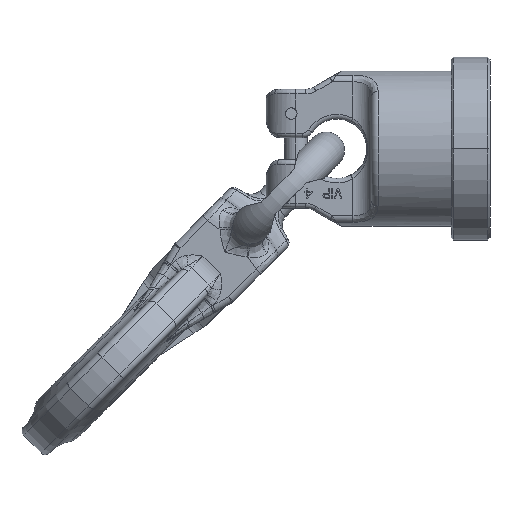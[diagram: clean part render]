
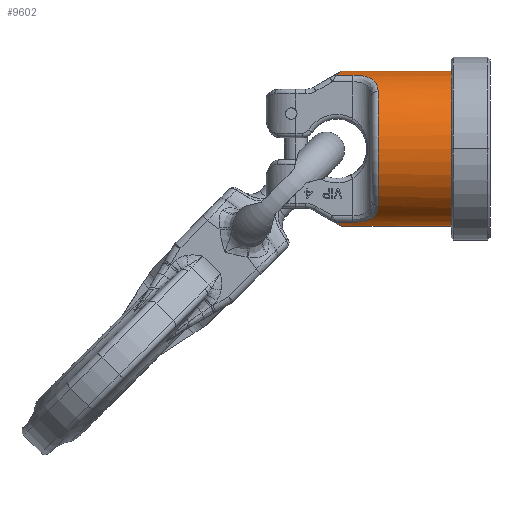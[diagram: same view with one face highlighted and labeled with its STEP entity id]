
A CAD part, front view. The second image highlights one B-rep face of the part: STEP entity #9602.
In plain terms, the highlighted cylindrical face has radius 17 mm (diameter 34 mm), a partial arc.
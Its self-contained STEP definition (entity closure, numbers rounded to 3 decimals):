
#6=CARTESIAN_POINT('',(43.,0.,0.));
#7=DIRECTION('',(1.,0.,0.));
#8=DIRECTION('',(0.,0.,1.));
#9=AXIS2_PLACEMENT_3D('',#6,#7,#8);
#1147=CARTESIAN_POINT('',(16.768,0.,
-17.));
#1155=DIRECTION('',(1.,0.,0.));
#1156=VECTOR('',#1155,26.232);
#1157=CARTESIAN_POINT('',(16.768,0.,
-17.));
#1158=LINE('',#1157,#1156);
#1821=CARTESIAN_POINT('',(15.286,-5.484,
-16.091));
#1822=CARTESIAN_POINT('',(15.552,-5.005,
-16.254));
#1823=CARTESIAN_POINT('',(16.004,-4.051,
-16.532));
#1824=CARTESIAN_POINT('',(16.457,-2.662,
-16.809));
#1825=CARTESIAN_POINT('',(16.714,-1.312,
-16.967));
#1826=CARTESIAN_POINT('',(16.768,-0.432,
-17.));
#1827=CARTESIAN_POINT('',(16.768,0.,
-17.));
#1829=DIRECTION('',(-1.,0.,0.));
#1830=VECTOR('',#1829,3.714);
#1831=CARTESIAN_POINT('',(19.,-5.484,
-16.091));
#1832=LINE('',#1831,#1830);
#1833=CARTESIAN_POINT('',(24.5,-11.516,
-12.505));
#1834=CARTESIAN_POINT('',(24.5,-11.126,
-12.864));
#1835=CARTESIAN_POINT('',(24.435,-10.343,
-13.521));
#1836=CARTESIAN_POINT('',(24.083,-9.098,
-14.383));
#1837=CARTESIAN_POINT('',(23.541,-8.045,
-14.989));
#1838=CARTESIAN_POINT('',(22.831,-7.134,
-15.44));
#1839=CARTESIAN_POINT('',(21.99,-6.409,
-15.75));
#1840=CARTESIAN_POINT('',(21.048,-5.878,
-15.954));
#1841=CARTESIAN_POINT('',(20.036,-5.555,
-16.067));
#1842=CARTESIAN_POINT('',(19.349,-5.484,
-16.091));
#1843=CARTESIAN_POINT('',(19.,-5.484,
-16.091));
#1845=CARTESIAN_POINT('',(24.5,0.,0.));
#1846=DIRECTION('',(1.,0.,0.));
#1847=DIRECTION('',(0.,-0.677,0.736));
#1848=AXIS2_PLACEMENT_3D('',#1845,#1846,#1847);
#1850=CARTESIAN_POINT('',(19.,-5.484,16.091));
#1851=CARTESIAN_POINT('',(19.349,-5.484,16.091));
#1852=CARTESIAN_POINT('',(20.036,-5.555,16.067));
#1853=CARTESIAN_POINT('',(21.051,-5.879,15.953));
#1854=CARTESIAN_POINT('',(21.993,-6.411,15.75));
#1855=CARTESIAN_POINT('',(22.835,-7.138,15.438));
#1856=CARTESIAN_POINT('',(23.545,-8.051,14.986));
#1857=CARTESIAN_POINT('',(24.087,-9.108,14.376));
#1858=CARTESIAN_POINT('',(24.437,-10.353,13.514));
#1859=CARTESIAN_POINT('',(24.5,-11.13,12.86));
#1860=CARTESIAN_POINT('',(24.5,-11.516,12.505));
#1862=DIRECTION('',(1.,0.,0.));
#1863=VECTOR('',#1862,3.714);
#1864=CARTESIAN_POINT('',(15.286,-5.484,16.091));
#1865=LINE('',#1864,#1863);
#1866=CARTESIAN_POINT('',(16.768,0.,17.));
#1867=CARTESIAN_POINT('',(16.768,-0.438,
17.));
#1868=CARTESIAN_POINT('',(16.712,-1.326,16.966));
#1869=CARTESIAN_POINT('',(16.456,-2.667,16.808));
#1870=CARTESIAN_POINT('',(16.003,-4.054,16.531));
#1871=CARTESIAN_POINT('',(15.552,-5.006,16.254));
#1872=CARTESIAN_POINT('',(15.286,-5.484,16.091));
#1874=DIRECTION('',(1.,0.,0.));
#1875=VECTOR('',#1874,26.232);
#1876=CARTESIAN_POINT('',(16.768,0.,17.));
#1877=LINE('',#1876,#1875);
#3032=CARTESIAN_POINT('',(15.286,-5.484,
-16.091));
#6515=CARTESIAN_POINT('',(43.,0.,-17.));
#6516=CARTESIAN_POINT('',(43.,0.,17.));
#6517=VERTEX_POINT('',#6515);
#6518=VERTEX_POINT('',#6516);
#6521=VERTEX_POINT('',#1833);
#6522=VERTEX_POINT('',#1843);
#6533=VERTEX_POINT('',#1850);
#6534=VERTEX_POINT('',#1860);
#7057=VERTEX_POINT('',#1147);
#7072=VERTEX_POINT('',#3032);
#7075=VERTEX_POINT('',#1866);
#7076=VERTEX_POINT('',#1872);
#9578=CARTESIAN_POINT('',(0.,0.,0.));
#9579=DIRECTION('',(1.,0.,0.));
#9580=DIRECTION('',(0.,0.,-1.));
#9581=AXIS2_PLACEMENT_3D('',#9578,#9579,#9580);
#9582=CYLINDRICAL_SURFACE('',#9581,17.);
#9584=ORIENTED_EDGE('',*,*,#9583,.F.);
#9586=ORIENTED_EDGE('',*,*,#9585,.F.);
#9588=ORIENTED_EDGE('',*,*,#9587,.F.);
#9590=ORIENTED_EDGE('',*,*,#9589,.F.);
#9592=ORIENTED_EDGE('',*,*,#9591,.F.);
#9594=ORIENTED_EDGE('',*,*,#9593,.F.);
#9596=ORIENTED_EDGE('',*,*,#9595,.F.);
#9597=ORIENTED_EDGE('',*,*,#7797,.T.);
#9598=ORIENTED_EDGE('',*,*,#7782,.T.);
#9599=ORIENTED_EDGE('',*,*,#7794,.F.);
#9600=EDGE_LOOP('',(#9584,#9586,#9588,#9590,#9592,#9594,#9596,#9597,#9598,
#9599));
#9601=FACE_OUTER_BOUND('',#9600,.F.);
#9602=ADVANCED_FACE('',(#9601),#9582,.T.);
#10=CIRCLE('',#9,17.);
#1828=B_SPLINE_CURVE_WITH_KNOTS('',3,(#1821,#1822,#1823,#1824,#1825,#1826,
#1827),.UNSPECIFIED.,.F.,.F.,(4,1,1,1,4),(0.,0.25,0.5,0.75,1.),
.UNSPECIFIED.);
#1844=B_SPLINE_CURVE_WITH_KNOTS('',3,(#1833,#1834,#1835,#1836,#1837,#1838,#1839,
#1840,#1841,#1842,#1843),.UNSPECIFIED.,.F.,.F.,(4,1,1,1,1,1,1,1,4),(0.,
0.125,0.25,0.375,0.5,0.625,0.75,0.875,1.),.UNSPECIFIED.);
#1849=CIRCLE('',#1848,17.);
#1861=B_SPLINE_CURVE_WITH_KNOTS('',3,(#1850,#1851,#1852,#1853,#1854,#1855,#1856,
#1857,#1858,#1859,#1860),.UNSPECIFIED.,.F.,.F.,(4,1,1,1,1,1,1,1,4),(0.,
0.125,0.25,0.375,0.5,0.625,0.75,0.875,1.),.UNSPECIFIED.);
#1873=B_SPLINE_CURVE_WITH_KNOTS('',3,(#1866,#1867,#1868,#1869,#1870,#1871,
#1872),.UNSPECIFIED.,.F.,.F.,(4,1,1,1,4),(0.,0.25,0.5,0.75,1.),
.UNSPECIFIED.);
#7782=EDGE_CURVE('',#6518,#6517,#10,.T.);
#7794=EDGE_CURVE('',#7057,#6517,#1158,.T.);
#7797=EDGE_CURVE('',#7075,#6518,#1877,.T.);
#9583=EDGE_CURVE('',#7072,#7057,#1828,.T.);
#9585=EDGE_CURVE('',#6522,#7072,#1832,.T.);
#9587=EDGE_CURVE('',#6521,#6522,#1844,.T.);
#9589=EDGE_CURVE('',#6534,#6521,#1849,.T.);
#9591=EDGE_CURVE('',#6533,#6534,#1861,.T.);
#9593=EDGE_CURVE('',#7076,#6533,#1865,.T.);
#9595=EDGE_CURVE('',#7075,#7076,#1873,.T.);
